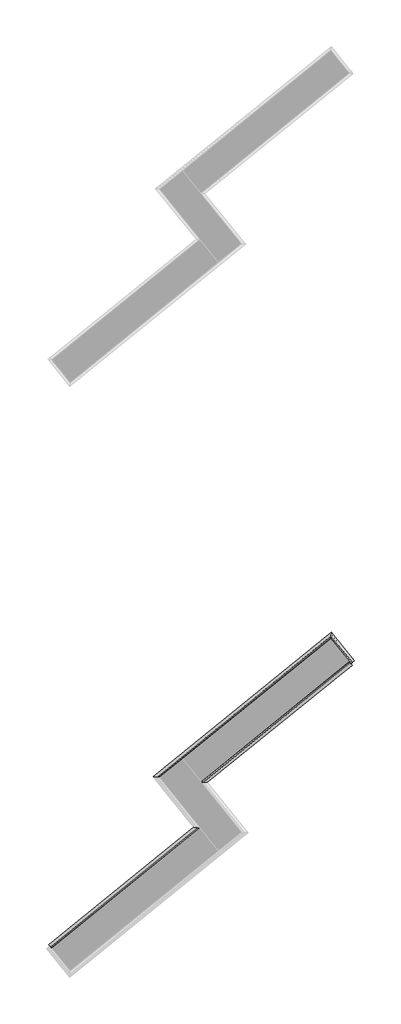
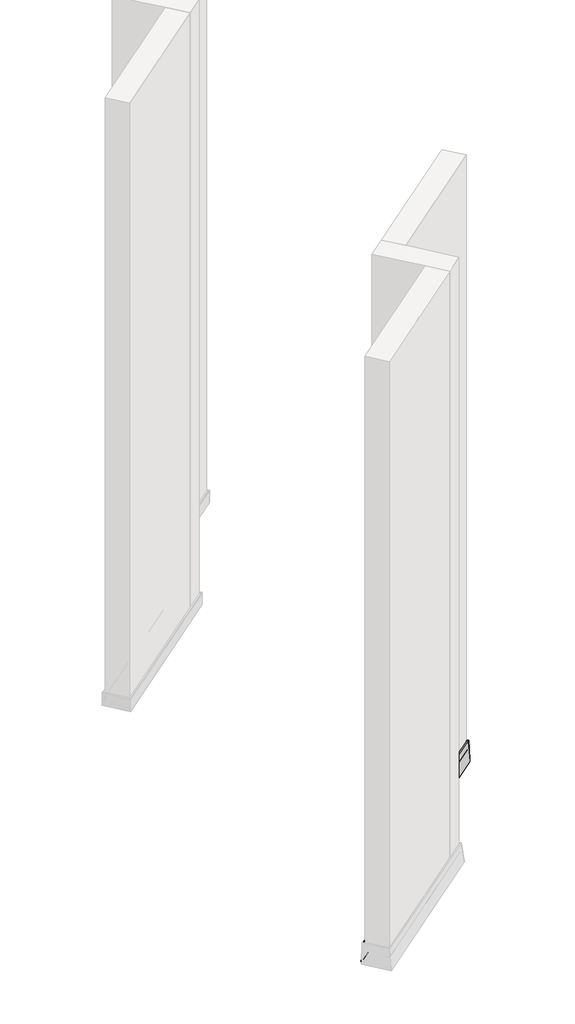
# One storey, part 3 of 21: 3 proxies.
"""IFC4 building model written with IfcOpenShell, lengths in millimetres."""

import ifcopenshell
import ifcopenshell.guid

model = None  # the IFC model being written
_history = None  # IfcOwnerHistory: only IFC2X3 demands one
_inside = {}  # id of a spatial element -> (the spatial element, [elements in it])
_under = {}  # id of a project, library or spatial element -> (it, [spatial elements below it])
_declared = {}  # id of a project -> (the project, [libraries it declares])
_typed = {}  # id of a type object -> (the type object, [elements of that type])
_made_of = {}  # id of a material, layer set ... -> (it, [elements and type objects made of it])


def new_model(schema):
    """Start an empty IFC model of exactly this schema.

    Asked for "IFC4X3", IfcOpenShell would pick the latest addendum, in which some entities
    have other attributes; the version numbers below select the first issue.
    IFC2X3 requires an IfcOwnerHistory on every rooted entity: one is made here for all.
    """
    global model, _history
    if schema == "IFC4X3":
        model = ifcopenshell.file(schema_version=(4, 3, 0, 0))
    else:
        model = ifcopenshell.file(schema=schema)
    _inside.clear()
    _under.clear()
    _declared.clear()
    _typed.clear()
    _made_of.clear()
    _history = None
    if model.schema == "IFC2X3":
        org = make("IfcOrganization", Name="unknown")
        user = make(
            "IfcPersonAndOrganization",
            ThePerson=make("IfcPerson", FamilyName="unknown"),
            TheOrganization=org,
        )
        app = make(
            "IfcApplication",
            ApplicationDeveloper=org,
            Version="unknown",
            ApplicationFullName="unknown",
            ApplicationIdentifier="unknown",
        )
        _history = make(
            "IfcOwnerHistory",
            OwningUser=user,
            OwningApplication=app,
            ChangeAction="ADDED",
            CreationDate=0,
        )
    return model


def make(cls, **values):
    """One entity of the class cls with the attributes given. An attribute that is None is left unset."""
    return model.create_entity(
        cls, **{name: value for name, value in values.items() if value is not None}
    )


def rooted(cls, **values):
    """An entity with a GlobalId (a new one), such as an element, a storey or a relation."""
    return make(cls, GlobalId=ifcopenshell.guid.new(), OwnerHistory=_history, **values)


def si_unit(unit_type, name, prefix=None):
    """IfcSIUnit, for example si_unit("LENGTHUNIT", "METRE", prefix="MILLI")."""
    return make("IfcSIUnit", UnitType=unit_type, Prefix=prefix, Name=name)


def assignment(units):
    """IfcUnitAssignment: the units of a project."""
    return None if units is None else make("IfcUnitAssignment", Units=units)


def point(xyz):
    """IfcCartesianPoint."""
    return None if xyz is None else make("IfcCartesianPoint", Coordinates=xyz)


def direction(xyz):
    """IfcDirection."""
    return None if xyz is None else make("IfcDirection", DirectionRatios=xyz)


def frame(location, z_axis=None, x_axis=None):
    """IfcAxis2Placement3D, a coordinate frame: its origin and axes. An axis left out is left unset."""
    return make(
        "IfcAxis2Placement3D",
        Location=point(location),
        Axis=direction(z_axis),
        RefDirection=direction(x_axis),
    )


def frame_2d(location, x_axis=None):
    """IfcAxis2Placement2D, a coordinate frame in the plane: its origin and x axis."""
    return make(
        "IfcAxis2Placement2D", Location=point(location), RefDirection=direction(x_axis)
    )


def origin():
    """The frame at (0, 0, 0) with its axes left unset."""
    return frame((0.0, 0.0, 0.0))


def place(relative_to, where):
    """IfcLocalPlacement: puts the frame where relative to a parent placement (None: the world)."""
    return make(
        "IfcLocalPlacement", PlacementRelTo=relative_to, RelativePlacement=where
    )


def context(
    kind, dimensions, precision=None, world=None, true_north=None, identifier=None
):
    """IfcGeometricRepresentationContext, for example the 3D "Model" context."""
    return make(
        "IfcGeometricRepresentationContext",
        ContextIdentifier=identifier,
        ContextType=kind,
        CoordinateSpaceDimension=dimensions,
        Precision=precision,
        WorldCoordinateSystem=world,
        TrueNorth=true_north,
    )


def project(units=None, contexts=None):
    """IfcProject with its units and contexts."""
    return rooted(
        "IfcProject",
        Name="project",
        RepresentationContexts=contexts,
        UnitsInContext=assignment(units),
    )


def spatial(cls, under=None, at=None, **own):
    """A site, building, storey or space (cls), placed at a placement, below another one or the project."""
    s = rooted(cls, ObjectPlacement=at, **own)
    if under is not None:
        _under.setdefault(under.id(), (under, []))[1].append(s)
    return s


def polyline(points):
    """IfcPolyline through the points."""
    return make("IfcPolyline", Points=[point(p) for p in points])


def circle_curve(where, radius):
    """IfcCircle in the frame where."""
    return make("IfcCircle", Position=where, Radius=radius)


def ellipse_curve(where, semi_axis1, semi_axis2):
    """IfcEllipse in the frame where."""
    return make(
        "IfcEllipse", Position=where, SemiAxis1=semi_axis1, SemiAxis2=semi_axis2
    )


def trimmed(basis, trim1, trim2, sense, master):
    """IfcTrimmedCurve: the piece of a basis curve between two trims."""
    return make(
        "IfcTrimmedCurve",
        BasisCurve=basis,
        Trim1=trim1,
        Trim2=trim2,
        SenseAgreement=sense,
        MasterRepresentation=master,
    )


def segment(curve, same_sense, transition):
    """IfcCompositeCurveSegment."""
    return make(
        "IfcCompositeCurveSegment",
        Transition=transition,
        SameSense=same_sense,
        ParentCurve=curve,
    )


def composite_curve(segments, self_intersect=None):
    """IfcCompositeCurve: segments joined end to end."""
    return make("IfcCompositeCurve", Segments=segments, SelfIntersect=self_intersect)


def outline(outer, holes=None, kind="AREA"):
    """IfcArbitraryClosedProfileDef: a profile drawn as a closed curve; with holes, ...WithVoids."""
    if holes is None:
        return make("IfcArbitraryClosedProfileDef", ProfileType=kind, OuterCurve=outer)
    return make(
        "IfcArbitraryProfileDefWithVoids",
        ProfileType=kind,
        OuterCurve=outer,
        InnerCurves=holes,
    )


def extrude(swept, where, along, depth):
    """IfcExtrudedAreaSolid: the profile swept, set in the frame where, extruded along a direction by depth."""
    return make(
        "IfcExtrudedAreaSolid",
        SweptArea=swept,
        Position=where,
        ExtrudedDirection=direction(along),
        Depth=depth,
    )


def shape(context_of_items, identifier, shape_type, items):
    """IfcShapeRepresentation: the items that make up one representation, for example the "Body"."""
    return make(
        "IfcShapeRepresentation",
        ContextOfItems=context_of_items,
        RepresentationIdentifier=identifier,
        RepresentationType=shape_type,
        Items=items,
    )


def made_of(thing, what):
    """Note that an element or type object is made of a material, layer set ...; save() writes the relation."""
    if what is not None:
        _made_of.setdefault(what.id(), (what, []))[1].append(thing)
    return thing


def element(
    cls,
    number,
    at=None,
    inside=None,
    cuts=None,
    type_object=None,
    material=None,
    context=None,
    identifier="Body",
    shape_type=None,
    held_by="IfcProductDefinitionShape",
    body=None,
    shapes=None,
    **own,
):
    """One element of the class cls, such as IfcWall. Its Tag is "e" and its number.

    at: its placement. inside: the storey or other place that contains it. cuts: it is an
    opening in that element (IfcRelVoidsElement). A single representation is given by context,
    identifier, shape_type and body (its items); several are given by shapes. held_by: the class
    of the entity that holds the representations. save() writes the other relations.
    """
    e = rooted(cls, Tag="e%d" % number, ObjectPlacement=at, **own)
    if body is not None:
        shapes = [shape(context, identifier, shape_type, body)]
    if shapes is not None:
        e.Representation = make(held_by, Representations=shapes)
    if inside is not None:
        _inside.setdefault(inside.id(), (inside, []))[1].append(e)
    if cuts is not None:
        rooted(
            "IfcRelVoidsElement", RelatingBuildingElement=cuts, RelatedOpeningElement=e
        )
    if type_object is not None:
        _typed.setdefault(type_object.id(), (type_object, []))[1].append(e)
    return made_of(e, material)


def aggregate(whole, parts):
    """IfcRelAggregates: a whole, such as a stair, and the parts it consists of."""
    return rooted("IfcRelAggregates", RelatingObject=whole, RelatedObjects=parts)


def save(model, path):
    """Write the relations noted so far, then the file.

    IfcRelAggregates (storeys below a building ...), IfcRelContainedInSpatialStructure (elements
    in a storey), IfcRelDefinesByType, IfcRelAssociatesMaterial and IfcRelDeclares: one each for
    every whole, place, type object, material and project.
    """
    for whole, parts in _under.values():
        aggregate(whole, parts)
    for where, things in _inside.values():
        rooted(
            "IfcRelContainedInSpatialStructure",
            RelatedElements=things,
            RelatingStructure=where,
        )
    for kind, things in _typed.values():
        rooted("IfcRelDefinesByType", RelatedObjects=things, RelatingType=kind)
    for what, things in _made_of.values():
        rooted("IfcRelAssociatesMaterial", RelatedObjects=things, RelatingMaterial=what)
    for by, libraries in _declared.values():
        rooted("IfcRelDeclares", RelatingContext=by, RelatedDefinitions=libraries)
    model.write(path)


def plane_surface(at):
    """IfcPlane: the flat surface through the origin of the frame at, square to its z axis."""
    return make("IfcPlane", Position=at)


def cylinder_surface(at, radius):
    """IfcCylindricalSurface: all points at the distance radius from the z axis of the frame at."""
    return make("IfcCylindricalSurface", Position=at, Radius=radius)


def advanced_brep(points, edges, surfaces, faces):
    """IfcAdvancedBrep: a solid bounded by faces that lie on surfaces and meet in shared edges.

    An edge is (start, end): straight between two places in points (the first is 0);
    or (start, end, curve); or (start, end, curve, False) where it runs against its curve.
    A face is (place in surfaces, loops), or (place, loops, False) where it looks against
    its surface's normal. A loop lists edges by number (the first is 1), with a minus sign
    where the edge is run from its end to its start. The first loop is the outer one.
    """
    corners = [point(p) for p in points]
    vertices = [make("IfcVertexPoint", VertexGeometry=c) for c in corners]
    made = []
    for start, end, *more in edges:
        made.append(
            make(
                "IfcEdgeCurve",
                EdgeStart=vertices[start],
                EdgeEnd=vertices[end],
                EdgeGeometry=more[0] if more else make("IfcPolyline", Points=[corners[start], corners[end]]),
                SameSense=more[1] if len(more) > 1 else True,
            )
        )
    hull = []
    for where, loops, *sense in faces:
        bounds = []
        for j, loop in enumerate(loops):
            ring = [make("IfcOrientedEdge", EdgeElement=made[abs(k) - 1], Orientation=k > 0) for k in loop]
            bounds.append(
                make(
                    "IfcFaceOuterBound" if j == 0 else "IfcFaceBound",
                    Bound=make("IfcEdgeLoop", EdgeList=ring),
                    Orientation=True,
                )
            )
        hull.append(make("IfcAdvancedFace", Bounds=bounds, FaceSurface=surfaces[where], SameSense=sense[0] if sense else True))
    return make("IfcAdvancedBrep", Outer=make("IfcClosedShell", CfsFaces=hull))


model = new_model("IFC4")

# Units and contexts
model_context = context("Model", 3, world=origin())
ifc_project = project(units=[si_unit("LENGTHUNIT", "METRE", prefix="MILLI")], contexts=[model_context])

# Site, building, storey
site = spatial("IfcSite", under=ifc_project)
building = spatial("IfcBuilding", under=site)
storey = spatial("IfcBuildingStorey", under=building, Name="Izofleks 2D View", Elevation=0.0)

# Proxies
placement = place(None, origin())
element("IfcBuildingElementProxy", 1, Name="Wall Sweeps", at=placement, inside=storey, context=model_context, shape_type="SweptSolid", body=[
    extrude(outline(composite_curve([segment(polyline([(15.6219715, -103.3958552), (6.3708871, -198.4044858), (1.9090731, -198.4044858), (1.9090731, -196.4379716), (-0.0570858, -196.4379716), (-0.0504537, -195.1968352), (3.1915412, -195.1968352), (3.1915412, -197.1519802), (5.2275732, -197.1519802), (9.2117278, -158.9598298), (5.1209002, -158.9598298)]), True, "CONTINUOUS"), segment(trimmed(circle_curve(frame_2d((5.1209002, -157.9598298)), 1.0), [point((5.1209002, -158.9598298))], [point((4.1375523, -158.1415633))], False, "CARTESIAN"), True, "CONTINUOUS"), segment(polyline([(4.1375523, -158.1415633), (2.4996951, -149.2792273)]), True, "CONTINUOUS"), segment(trimmed(circle_curve(frame_2d((3.5460542, -149.1129589)), 1.0594869), [point((2.4996951, -149.2792273))], [point((3.7739381, -148.0782698))], False, "CARTESIAN"), True, "CONTINUOUS"), segment(polyline([(3.7739381, -148.0782698), (3.33335, -147.1943194), (1.29999, -147.1943194), (1.29999, -153.3045194)]), True, "CONTINUOUS"), segment(trimmed(circle_curve(frame_2d((0.2491905, -153.2834776)), 1.0510102), [point((1.29999, -153.3045194))], [point((0.0, -154.3045194))], False, "CARTESIAN"), True, "CONTINUOUS"), segment(polyline([(0.0, -154.3045194), (0.0, -99.3045294), (1.29999, -99.3045294), (1.29999, -116.3045194), (6.2996999, -116.3045194)]), True, "CONTINUOUS"), segment(trimmed(circle_curve(frame_2d((6.1786476, -116.9545244)), 0.6611809), [point((6.2996999, -116.3045194))], [point((6.2953783, -117.6053194))], False, "CARTESIAN"), True, "CONTINUOUS"), segment(polyline([(6.2953783, -117.6053194), (4.6572599, -117.6053194), (6.6241655, -126.5026094)]), True, "CONTINUOUS"), segment(trimmed(circle_curve(frame_2d((6.1203531, -126.5467173)), 0.5057396), [point((6.6241655, -126.5026094))], [point((6.1241073, -127.0524429))], False, "CARTESIAN"), True, "CONTINUOUS"), segment(polyline([(6.1241073, -127.0524429), (6.5633432, -128.7119572), (12.0010036, -128.7119572), (14.2355227, -104.706391), (11.3870675, -104.706391), (11.3870675, -100.9757578), (12.6979585, -100.9757578), (12.6979585, -103.3958552), (15.6219715, -103.3958552)]), True, "CONTINUOUS")], self_intersect=False)), frame((2288.0380278, -9173.6542987, -99.3045294), z_axis=(0.7771459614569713, 0.629320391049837, 0.0), x_axis=(0.629320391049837, -0.7771459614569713, 0.0)), (0.0, 0.0, 1.0), 650.0),
])
element("IfcBuildingElementProxy", 2, Name="Wall Sweeps", at=placement, inside=storey, context=model_context, shape_type="AdvancedBrep", body=[
    advanced_brep(
    [(2125.4196152, -9156.5624148, 4.0913258), (2129.532141, -9156.9946587, 4.0913258), (2129.532141, -9156.9946587, 1.6712284), (2131.3758652, -9157.1884419, 1.6712284), (2131.3758652, -9157.1884419, 5.4018616), (2127.3696087, -9156.7673674, 5.4018616), (2130.5123846, -9157.0976864, 29.4074278), (2138.160271, -9157.9015117, 29.4074278), (2138.7780416, -9157.966442, 27.7479135), (2138.0747265, -9157.8925206, 27.19808), (2140.841113, -9158.1832795, 18.30079), (2138.5371548, -9157.9411238, 18.30079), (2138.5310764, -9157.9404849, 16.99999), (2145.5630003, -9158.6795699, 16.99999), (2145.5630003, -9158.6795699, 0.0), (2147.3913925, -9158.8717417, 0.0), (2147.3913925, -9158.8717417, 54.99999), (2145.5630003, -9158.6795699, 53.99999), (2145.5630003, -9158.6795699, 47.88979), (2142.7031479, -9158.3789873, 47.88979), (2142.0834754, -9158.3138571, 48.7737404), (2143.8756554, -9158.5022228, 49.9746979), (2141.5720643, -9158.2601056, 58.8370339), (2140.1890187, -9158.1147417, 59.6553004), (2134.4354072, -9157.5100127, 59.6553004), (2140.0389867, -9158.0989727, 97.8474508), (2142.9025972, -9158.3999503, 97.8474508), (2142.9025972, -9158.3999503, 95.8923058), (2147.462354, -9158.8792, 95.8923058), (2147.4716817, -9158.8801804, 97.1334422), (2144.7063454, -9158.5895318, 97.1334422), (2144.7063454, -9158.5895318, 99.0999564), (2138.4309541, -9157.9299616, 99.0999564), (2811.0644981, -8761.8544174, 4.0913258), (2803.8750553, -8767.6763134, 99.0999564), (2800.4075745, -8770.484224, 99.0999564), (2800.4075745, -8770.484224, 97.1334422), (2798.8795821, -8771.7215679, 97.1334422), (2798.8847361, -8771.7173942, 95.8923058), (2801.4042394, -8769.6771407, 95.8923058), (2801.4042394, -8769.6771407, 97.8474508), (2802.9865335, -8768.3958242, 97.8474508), (2806.0828032, -8765.8885145, 59.6553004), (2802.903633, -8768.4629557, 59.6553004), (2802.1394282, -8769.0817966, 58.8370339), (2800.8665741, -8770.1125335, 49.9746979), (2801.8568469, -8769.3106264, 48.7737404), (2801.5144456, -8769.5878975, 47.88979), (2799.934228, -8770.8675324, 47.88979), (2799.934228, -8770.8675324, 53.99999), (2798.9239461, -8771.6856426, 54.99999), (2798.9239461, -8771.6856426, 0.0), (2799.934228, -8770.8675324, 0.0), (2799.934228, -8770.8675324, 16.99999), (2803.8197325, -8767.721113, 16.99999), (2803.8163739, -8767.7238327, 18.30079), (2802.5433169, -8768.754734, 18.30079), (2804.0718896, -8767.5169202, 27.19808), (2803.6832713, -8767.831617, 27.7479135), (2804.0246218, -8767.5551969, 29.4074278), (2808.2504776, -8764.1331663, 29.4074278), (2809.9870251, -8762.7269379, 5.4018616), (2807.7733596, -8764.5195288, 5.4018616), (2807.7733596, -8764.5195288, 1.6712284), (2808.7921133, -8763.6945584, 1.6712284), (2808.7921133, -8763.6945584, 4.0913258), (2732.5601904, -8664.9096711, 4.0913258), (2731.1926436, -8677.9210099, 99.0999564), (2730.5330734, -8684.1964013, 99.0999564), (2730.5330734, -8684.1964013, 97.1334422), (2730.2424249, -8686.9617376, 97.1334422), (2730.2434052, -8686.9524099, 95.8923058), (2730.722655, -8682.3926531, 95.8923058), (2730.722655, -8682.3926531, 97.8474508), (2731.0236326, -8679.5290425, 97.8474508), (2731.6125925, -8673.9254631, 59.6553004), (2731.0078636, -8679.6790746, 59.6553004), (2730.8624996, -8681.0621202, 58.8370339), (2730.6203825, -8683.3657112, 49.9746979), (2730.8087482, -8681.5735313, 48.7737404), (2730.743618, -8682.1932038, 47.88979), (2730.4430354, -8685.0530562, 47.88979), (2730.4430354, -8685.0530562, 53.99999), (2730.2508636, -8686.8814484, 54.99999), (2730.2508636, -8686.8814484, 0.0), (2793.1829027, -8764.5960445, 0.0), (2730.4430354, -8685.0530562, 0.0), (2730.4430354, -8685.0530562, 16.99999), (2731.1821203, -8678.0211323, 16.99999), (2731.1814815, -8678.0272106, 18.30079), (2730.9393257, -8680.3311689, 18.30079), (2731.2300846, -8677.5647824, 27.19808), (2731.1561633, -8678.2680975, 27.7479135), (2731.2210936, -8677.6503269, 29.4074278), (2732.0249188, -8670.0024405, 29.4074278), (2732.3552379, -8666.8596646, 5.4018616), (2731.9341633, -8670.865921, 5.4018616), (2731.9341633, -8670.865921, 1.6712284), (2732.1279466, -8669.0221969, 1.6712284), (2732.1279466, -8669.0221969, 4.0913258), (2225.1059886, -9095.9397026, 0.0)],
    [
        (0, 1),
        (1, 2),
        (2, 3),
        (3, 4),
        (4, 5),
        (5, 6),
        (6, 7),
        (7, 8),
        (8, 9, ellipse_curve(frame((2138.7833218, -9157.966997, 27.2421879), z_axis=(-0.10452846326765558, -0.9945218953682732, 0.0), x_axis=(0.9945218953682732, -0.1045284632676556, 0.0)), 0.7152237, 0.5057396)),
        (9, 10),
        (10, 11),
        (11, 12, ellipse_curve(frame((2138.7013325, -9157.9583796, 17.649995), z_axis=(-0.10452846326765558, -0.9945218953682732, 0.0), x_axis=(0.9945218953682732, -0.10452846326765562, 0.0)), 0.935051, 0.6611809)),
        (12, 13),
        (13, 14),
        (14, 15),
        (15, 16),
        (16, 17, ellipse_curve(frame((2147.0409144, -9158.8349049, 53.9789482), z_axis=(-0.10452846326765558, -0.9945218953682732, 0.0), x_axis=(0.9945218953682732, -0.10452846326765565, 0.0)), 1.4863528, 1.0510102)),
        (17, 18),
        (18, 19),
        (19, 20),
        (20, 21, ellipse_curve(frame((2142.4039865, -9158.3475442, 49.8084295), z_axis=(-0.10452846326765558, -0.9945218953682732, 0.0), x_axis=(0.9945218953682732, -0.10452846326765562, 0.0)), 1.4983408, 1.0594869)),
        (21, 22),
        (22, 23, ellipse_curve(frame((2140.1890187, -9158.1147417, 58.6553004), z_axis=(-0.10452846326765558, -0.9945218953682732, 0.0), x_axis=(0.9945218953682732, -0.10452846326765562, 0.0)), 1.4142136, 1.0)),
        (23, 24),
        (24, 25),
        (25, 26),
        (26, 27),
        (27, 28),
        (28, 29),
        (29, 30),
        (30, 31),
        (31, 32),
        (32, 0),
        (33, 34),
        (34, 35),
        (35, 36),
        (36, 37),
        (37, 38),
        (38, 39),
        (39, 40),
        (40, 41),
        (41, 42),
        (42, 43),
        (43, 44, circle_curve(frame((2802.903633, -8768.4629557, 58.6553004), z_axis=(0.6293203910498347, -0.777145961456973, 0.0), x_axis=(-0.7642047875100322, -0.6188408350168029, 0.18173349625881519)), 1.0)),
        (44, 45),
        (45, 46, circle_curve(frame((2801.6797478, -8769.4540384, 49.8084295), z_axis=(0.6293203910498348, -0.7771459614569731, 0.0), x_axis=(0.1671555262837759, 0.1353598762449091, -0.9765944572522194)), 1.0594869)),
        (46, 47),
        (47, 48),
        (48, 49),
        (49, 50, circle_curve(frame((2799.1176035, -8771.528822, 53.9789482), z_axis=(0.6293203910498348, -0.777145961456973, 0.0), x_axis=(-0.18425834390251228, -0.14920946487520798, 0.9714861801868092)), 1.0510102)),
        (50, 51),
        (51, 52),
        (52, 53),
        (53, 54),
        (54, 55, circle_curve(frame((2803.7256571, -8767.7972937, 17.649995), z_axis=(0.6293203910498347, -0.777145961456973, 0.0), x_axis=(0.1422838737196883, 0.11521920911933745, 0.9830970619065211)), 0.6611809)),
        (55, 56),
        (56, 57),
        (57, 58, circle_curve(frame((2803.6803538, -8767.8339796, 27.2421879), z_axis=(0.6293203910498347, -0.7771459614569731, 0.0), x_axis=(0.005768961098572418, 0.004671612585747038, 0.9999724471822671)), 0.5057396)),
        (58, 59),
        (59, 60),
        (60, 61),
        (61, 62),
        (62, 63),
        (63, 64),
        (64, 65),
        (65, 33),
        (33, 66),
        (66, 67),
        (67, 34),
        (67, 68),
        (68, 35),
        (68, 69),
        (69, 36),
        (69, 70),
        (70, 37),
        (70, 71),
        (71, 38),
        (71, 72),
        (72, 39),
        (72, 73),
        (73, 40),
        (73, 74),
        (74, 41),
        (74, 75),
        (75, 42),
        (75, 76),
        (76, 43),
        (76, 77, ellipse_curve(frame((2731.0078636, -8679.6790746, 58.6553004), z_axis=(0.9945218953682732, -0.10452846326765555, 0.0), x_axis=(-0.10452846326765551, -0.9945218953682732, 0.0)), 1.4142136, 1.0)),
        (77, 44),
        (77, 78),
        (78, 45),
        (78, 79, ellipse_curve(frame((2730.7750611, -8681.8940424, 49.8084295), z_axis=(0.9945218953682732, -0.10452846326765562, 0.0), x_axis=(-0.10452846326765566, -0.9945218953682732, 0.0)), 1.4983408, 1.0594869)),
        (79, 46),
        (79, 80),
        (80, 47),
        (80, 81),
        (81, 48),
        (81, 82),
        (82, 49),
        (82, 83, ellipse_curve(frame((2730.2877003, -8686.5309703, 53.9789482), z_axis=(0.9945218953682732, -0.10452846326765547, 0.0), x_axis=(-0.10452846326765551, -0.9945218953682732, 0.0)), 1.4863528, 1.0510102)),
        (83, 50),
        (83, 84),
        (84, 85),
        (85, 51),
        (84, 86),
        (86, 52),
        (86, 87),
        (87, 53),
        (87, 88),
        (88, 54),
        (88, 89, ellipse_curve(frame((2731.1642257, -8678.1913884, 17.649995), z_axis=(0.9945218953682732, -0.10452846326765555, 0.0), x_axis=(-0.10452846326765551, -0.9945218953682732, 0.0)), 0.935051, 0.6611809)),
        (89, 55),
        (89, 90),
        (90, 56),
        (90, 91),
        (91, 57),
        (91, 92, ellipse_curve(frame((2731.1556083, -8678.2733777, 27.2421879), z_axis=(0.9945218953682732, -0.10452846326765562, 0.0), x_axis=(-0.10452846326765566, -0.9945218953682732, 0.0)), 0.7152237, 0.5057396)),
        (92, 58),
        (92, 93),
        (93, 59),
        (93, 94),
        (94, 60),
        (94, 95),
        (95, 61),
        (95, 96),
        (96, 62),
        (96, 97),
        (97, 63),
        (97, 98),
        (98, 64),
        (98, 99),
        (99, 65),
        (99, 66),
        (66, 0),
        (32, 67),
        (31, 68),
        (30, 69),
        (29, 70),
        (28, 71),
        (27, 72),
        (26, 73),
        (25, 74),
        (24, 75),
        (23, 76),
        (22, 77),
        (21, 78),
        (20, 79),
        (19, 80),
        (18, 81),
        (17, 82),
        (16, 83),
        (15, 100),
        (100, 84),
        (14, 86),
        (13, 87),
        (12, 88),
        (11, 89),
        (10, 90),
        (9, 91),
        (8, 92),
        (7, 93),
        (6, 94),
        (5, 95),
        (4, 96),
        (3, 97),
        (2, 98),
        (1, 99),
    ],
    [
        plane_surface(frame((2147.3913925, -9158.8717417, -304.8), z_axis=(-0.10452846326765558, -0.9945218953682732, 0.0), x_axis=(0.9945218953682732, -0.10452846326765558, 0.0))),
        plane_surface(frame((2798.9239461, -8771.6856426, 0.0), z_axis=(0.6293203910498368, -0.7771459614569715, 0.0), x_axis=(-0.7771459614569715, -0.6293203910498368, 0.0))),
        plane_surface(frame((2811.0644981, -8761.8544174, 4.0913258), z_axis=(0.7734878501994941, 0.626358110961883, 0.09691265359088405), x_axis=(-0.6293203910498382, 0.7771459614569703, 0.0))),
        plane_surface(frame((2803.8750553, -8767.6763134, 99.0999564), z_axis=(0.0, 0.0, 1.0), x_axis=(-0.6293203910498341, 0.7771459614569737, 0.0))),
        plane_surface(frame((2800.4075745, -8770.484224, 99.0999564), z_axis=(-0.7771459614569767, -0.6293203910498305, 0.0), x_axis=(-0.6293203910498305, 0.7771459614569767, 0.0))),
        plane_surface(frame((2800.4075745, -8770.484224, 97.1334422), z_axis=(0.0, 0.0, 1.0), x_axis=(-0.6293203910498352, 0.7771459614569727, 0.0))),
        plane_surface(frame((2798.8795821, -8771.7215679, 97.1334422), z_axis=(-0.7771348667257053, -0.6293114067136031, -0.005343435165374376), x_axis=(-0.6293203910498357, 0.7771459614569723, 0.0))),
        plane_surface(frame((2798.8847361, -8771.7173942, 95.8923058), z_axis=(0.0, 0.0, -1.0), x_axis=(-0.6293203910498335, 0.777145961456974, 0.0))),
        plane_surface(frame((2801.4042394, -8769.6771407, 95.8923058), z_axis=(0.7771459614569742, 0.6293203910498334, 0.0), x_axis=(-0.6293203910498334, 0.7771459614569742, 0.0))),
        plane_surface(frame((2801.4042394, -8769.6771407, 97.8474508), z_axis=(0.0, 0.0, -1.0000000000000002), x_axis=(-0.6293203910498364, 0.7771459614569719, 0.0))),
        plane_surface(frame((2802.9865335, -8768.3958242, 97.8474508), z_axis=(-0.7729515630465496, -0.6259238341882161, -0.10375565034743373), x_axis=(-0.6293203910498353, 0.7771459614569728, 0.0))),
        plane_surface(frame((2806.0828032, -8765.8885145, 59.6553004), z_axis=(0.0, 0.0, 1.0), x_axis=(-0.6293203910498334, 0.7771459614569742, 0.0))),
        cylinder_surface(frame((2802.903633, -8768.4629557, 58.6553004), z_axis=(0.6293203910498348, -0.7771459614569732, 0.0), x_axis=(-0.7642047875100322, -0.6188408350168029, 0.18173349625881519)), 1.0),
        plane_surface(frame((2802.1394282, -8769.0817966, 58.8370339), z_axis=(-0.7642047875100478, -0.6188408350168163, 0.18173349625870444), x_axis=(-0.6293203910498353, 0.7771459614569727, 0.0))),
        cylinder_surface(frame((2801.6797478, -8769.4540384, 49.8084295), z_axis=(0.6293203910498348, -0.7771459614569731, 0.0), x_axis=(0.1671555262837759, 0.1353598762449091, -0.9765944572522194)), 1.0594869),
        plane_surface(frame((2801.8568469, -8769.3106264, 48.7737404), z_axis=(-0.695536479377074, -0.5632343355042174, 0.44608977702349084), x_axis=(-0.6293203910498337, 0.7771459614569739, 0.0))),
        plane_surface(frame((2801.5144456, -8769.5878975, 47.88979), z_axis=(0.0, 0.0, 1.0), x_axis=(-0.6293203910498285, 0.7771459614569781, 0.0))),
        plane_surface(frame((2799.934228, -8770.8675324, 47.88979), z_axis=(0.7771459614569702, 0.6293203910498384, 0.0), x_axis=(-0.6293203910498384, 0.7771459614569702, 0.0))),
        cylinder_surface(frame((2799.1176035, -8771.528822, 53.9789482), z_axis=(0.6293203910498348, -0.777145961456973, 0.0), x_axis=(-0.18425834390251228, -0.14920946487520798, 0.9714861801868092)), 1.0510102),
        plane_surface(frame((2798.9239461, -8771.6856426, 54.99999), z_axis=(-0.7771459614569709, -0.6293203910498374, 0.0), x_axis=(-0.6293203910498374, 0.7771459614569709, 0.0))),
        plane_surface(frame((2798.9239461, -8771.6856426, 0.0), z_axis=(0.0, 0.0, -1.0), x_axis=(-0.6293203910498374, 0.7771459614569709, 0.0))),
        plane_surface(frame((2799.934228, -8770.8675324, 0.0), z_axis=(0.7771459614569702, 0.6293203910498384, 0.0), x_axis=(-0.6293203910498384, 0.7771459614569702, 0.0))),
        plane_surface(frame((2799.934228, -8770.8675324, 16.99999), z_axis=(0.0, 0.0, -1.0), x_axis=(-0.6293203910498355, 0.7771459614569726, 0.0))),
        cylinder_surface(frame((2803.7256571, -8767.7972937, 17.649995), z_axis=(0.6293203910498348, -0.7771459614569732, 0.0), x_axis=(0.1422838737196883, 0.11521920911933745, 0.9830970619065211)), 0.6611809),
        plane_surface(frame((2803.8163739, -8767.7238327, 18.30079), z_axis=(0.0, 0.0, 1.0), x_axis=(-0.6293203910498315, 0.7771459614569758, 0.0))),
        plane_surface(frame((2802.5433169, -8768.754734, 18.30079), z_axis=(0.7588248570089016, 0.6144842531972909, -0.21585629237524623), x_axis=(-0.6293203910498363, 0.7771459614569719, 0.0))),
        cylinder_surface(frame((2803.6803538, -8767.8339796, 27.2421879), z_axis=(0.6293203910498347, -0.7771459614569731, 0.0), x_axis=(0.005768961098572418, 0.004671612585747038, 0.9999724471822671)), 0.5057396),
        plane_surface(frame((2803.6832713, -8767.831617, 27.7479135), z_axis=(0.7512763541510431, 0.6083715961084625, -0.2558668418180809), x_axis=(-0.6293203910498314, 0.7771459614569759, 0.0))),
        plane_surface(frame((2804.0246218, -8767.5551969, 29.4074278), z_axis=(0.0, 0.0, -1.0000000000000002), x_axis=(-0.6293203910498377, 0.7771459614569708, 0.0))),
        plane_surface(frame((2808.2504776, -8764.1331663, 29.4074278), z_axis=(-0.7738008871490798, -0.6266116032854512, -0.09268271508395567), x_axis=(-0.6293203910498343, 0.7771459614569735, 0.0))),
        plane_surface(frame((2809.9870251, -8762.7269379, 5.4018616), z_axis=(0.0, 0.0, 1.0), x_axis=(-0.6293203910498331, 0.7771459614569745, 0.0))),
        plane_surface(frame((2807.7733596, -8764.5195288, 5.4018616), z_axis=(-0.7771459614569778, -0.629320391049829, 0.0), x_axis=(-0.629320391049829, 0.7771459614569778, 0.0))),
        plane_surface(frame((2807.7733596, -8764.5195288, 1.6712284), z_axis=(0.0, 0.0, -1.0), x_axis=(-0.629320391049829, 0.7771459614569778, 0.0))),
        plane_surface(frame((2808.7921133, -8763.6945584, 1.6712284), z_axis=(0.7771459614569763, 0.6293203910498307, 0.0), x_axis=(-0.6293203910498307, 0.7771459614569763, 0.0))),
        plane_surface(frame((2808.7921133, -8763.6945584, 4.0913258), z_axis=(0.0, 0.0, -1.0), x_axis=(-0.6293203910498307, 0.7771459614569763, 0.0))),
        plane_surface(frame((2732.5601904, -8664.9096711, 4.0913258), z_axis=(-0.6263581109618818, 0.773487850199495, 0.09691265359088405), x_axis=(-0.7771459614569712, -0.629320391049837, 0.0))),
        plane_surface(frame((2731.1926436, -8677.9210099, 99.0999564), z_axis=(0.0, 0.0, 1.0000000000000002), x_axis=(-0.7771459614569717, -0.6293203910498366, 0.0))),
        plane_surface(frame((2730.5330734, -8684.1964013, 99.0999564), z_axis=(0.6293203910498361, -0.777145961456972, 0.0), x_axis=(-0.777145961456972, -0.6293203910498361, 0.0))),
        plane_surface(frame((2730.5330734, -8684.1964013, 97.1334422), z_axis=(0.0, 0.0, 1.0000000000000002), x_axis=(-0.7771459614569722, -0.629320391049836, 0.0))),
        plane_surface(frame((2730.2424249, -8686.9617376, 97.1334422), z_axis=(0.6293114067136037, -0.7771348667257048, -0.005343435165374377), x_axis=(-0.7771459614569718, -0.6293203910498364, 0.0))),
        plane_surface(frame((2730.2434052, -8686.9524099, 95.8923058), z_axis=(0.0, 0.0, -1.0), x_axis=(-0.7771459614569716, -0.6293203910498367, 0.0))),
        plane_surface(frame((2730.722655, -8682.3926531, 95.8923058), z_axis=(-0.6293203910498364, 0.7771459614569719, 0.0), x_axis=(-0.7771459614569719, -0.6293203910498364, 0.0))),
        plane_surface(frame((2730.722655, -8682.3926531, 97.8474508), z_axis=(0.0, 0.0, -1.0000000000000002), x_axis=(-0.7771459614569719, -0.6293203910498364, 0.0))),
        plane_surface(frame((2731.0236326, -8679.5290425, 97.8474508), z_axis=(0.6259238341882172, -0.7729515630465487, -0.10375565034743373), x_axis=(-0.7771459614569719, -0.6293203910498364, 0.0))),
        plane_surface(frame((2731.6125925, -8673.9254631, 59.6553004), z_axis=(0.0, 0.0, 1.0), x_axis=(-0.7771459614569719, -0.6293203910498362, 0.0))),
        cylinder_surface(frame((2727.0281767, -8682.9017615, 58.6553004), z_axis=(0.7771459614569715, 0.6293203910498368, 0.0), x_axis=(0.6188408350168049, -0.7642047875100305, 0.18173349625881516)), 1.0),
        plane_surface(frame((2730.8624996, -8681.0621202, 58.8370339), z_axis=(0.6188408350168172, -0.7642047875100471, 0.18173349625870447), x_axis=(-0.777145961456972, -0.6293203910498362, 0.0))),
        cylinder_surface(frame((2728.0192594, -8684.1256466, 49.8084295), z_axis=(0.7771459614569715, 0.6293203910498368, 0.0), x_axis=(-0.13535987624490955, 0.16715552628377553, -0.9765944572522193)), 1.0594869),
        plane_surface(frame((2730.8087482, -8681.5735313, 48.7737404), z_axis=(0.5632343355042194, -0.6955364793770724, 0.44608977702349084), x_axis=(-0.7771459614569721, -0.6293203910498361, 0.0))),
        plane_surface(frame((2730.743618, -8682.1932038, 47.88979), z_axis=(0.0, 0.0, 1.0), x_axis=(-0.7771459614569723, -0.6293203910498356, 0.0))),
        plane_surface(frame((2730.4430354, -8685.0530562, 47.88979), z_axis=(-0.6293203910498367, 0.7771459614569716, 0.0), x_axis=(-0.7771459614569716, -0.6293203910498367, 0.0))),
        cylinder_surface(frame((2730.0940429, -8686.687791, 53.9789482), z_axis=(0.7771459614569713, 0.629320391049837, 0.0), x_axis=(0.14920946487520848, -0.1842583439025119, 0.9714861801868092)), 1.0510102),
        plane_surface(frame((2730.2508636, -8686.8814484, 54.99999), z_axis=(0.6293203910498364, -0.7771459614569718, 0.0), x_axis=(-0.7771459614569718, -0.6293203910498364, 0.0))),
        plane_surface(frame((2730.2508636, -8686.8814484, 0.0), z_axis=(0.0, 0.0, -1.0), x_axis=(-0.7771459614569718, -0.6293203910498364, 0.0))),
        plane_surface(frame((2730.4430354, -8685.0530562, 0.0), z_axis=(-0.6293203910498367, 0.7771459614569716, 0.0), x_axis=(-0.7771459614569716, -0.6293203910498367, 0.0))),
        plane_surface(frame((2730.4430354, -8685.0530562, 16.99999), z_axis=(0.0, 0.0, -1.0), x_axis=(-0.7771459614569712, -0.6293203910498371, 0.0))),
        cylinder_surface(frame((2726.3625147, -8682.0797373, 17.649995), z_axis=(0.7771459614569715, 0.6293203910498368, 0.0), x_axis=(-0.11521920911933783, 0.14228387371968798, 0.9830970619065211)), 0.6611809),
        plane_surface(frame((2731.1814815, -8678.0272106, 18.30079), z_axis=(0.0, 0.0, 1.0), x_axis=(-0.7771459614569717, -0.6293203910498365, 0.0))),
        plane_surface(frame((2730.9393257, -8680.3311689, 18.30079), z_axis=(-0.6144842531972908, 0.7588248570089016, -0.21585629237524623), x_axis=(-0.7771459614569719, -0.6293203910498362, 0.0))),
        cylinder_surface(frame((2726.3992006, -8682.1250407, 27.2421879), z_axis=(0.7771459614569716, 0.6293203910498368, 0.0), x_axis=(-0.004671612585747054, 0.005768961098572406, 0.9999724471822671)), 0.5057396),
        plane_surface(frame((2731.1561633, -8678.2680975, 27.7479135), z_axis=(-0.608371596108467, 0.7512763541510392, -0.25586684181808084), x_axis=(-0.777145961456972, -0.6293203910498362, 0.0))),
        plane_surface(frame((2731.2210936, -8677.6503269, 29.4074278), z_axis=(0.0, 0.0, -1.0000000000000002), x_axis=(-0.7771459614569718, -0.6293203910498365, 0.0))),
        plane_surface(frame((2732.0249188, -8670.0024405, 29.4074278), z_axis=(0.6266116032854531, -0.7738008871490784, -0.0926827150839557), x_axis=(-0.777145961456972, -0.6293203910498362, 0.0))),
        plane_surface(frame((2732.3552379, -8666.8596646, 5.4018616), z_axis=(0.0, 0.0, 1.0), x_axis=(-0.7771459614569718, -0.6293203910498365, 0.0))),
        plane_surface(frame((2731.9341633, -8670.865921, 5.4018616), z_axis=(0.6293203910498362, -0.7771459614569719, 0.0), x_axis=(-0.7771459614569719, -0.6293203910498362, 0.0))),
        plane_surface(frame((2731.9341633, -8670.865921, 1.6712284), z_axis=(0.0, 0.0, -1.0000000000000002), x_axis=(-0.7771459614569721, -0.6293203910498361, 0.0))),
        plane_surface(frame((2732.1279466, -8669.0221969, 1.6712284), z_axis=(-0.6293203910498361, 0.7771459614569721, 0.0), x_axis=(-0.7771459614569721, -0.6293203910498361, 0.0))),
        plane_surface(frame((2732.1279466, -8669.0221969, 4.0913258), z_axis=(0.0, 0.0, -1.0), x_axis=(-0.7771459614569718, -0.6293203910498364, 0.0))),
    ],
    [
        (0, [[1, 2, 3, 4, 5, 6, 7, 8, 9, 10, 11, 12, 13, 14, 15, 16, 17, 18, 19, 20, 21, 22, 23, 24, 25, 26, 27, 28, 29, 30, 31, 32, 33]]),
        (1, [[34, 35, 36, 37, 38, 39, 40, 41, 42, 43, 44, 45, 46, 47, 48, 49, 50, 51, 52, 53, 54, 55, 56, 57, 58, 59, 60, 61, 62, 63, 64, 65, 66]]),
        (2, [[-34, 67, 68, 69]]),
        (3, [[-35, -69, 70, 71]]),
        (4, [[-36, -71, 72, 73]]),
        (5, [[-37, -73, 74, 75]]),
        (6, [[-38, -75, 76, 77]]),
        (7, [[-39, -77, 78, 79]]),
        (8, [[-40, -79, 80, 81]]),
        (9, [[-41, -81, 82, 83]]),
        (10, [[-42, -83, 84, 85]]),
        (11, [[-43, -85, 86, 87]]),
        (12, [[-44, -87, 88, 89]]),
        (13, [[-45, -89, 90, 91]]),
        (14, [[-46, -91, 92, 93]]),
        (15, [[-47, -93, 94, 95]]),
        (16, [[-48, -95, 96, 97]]),
        (17, [[-49, -97, 98, 99]]),
        (18, [[-50, -99, 100, 101]]),
        (19, [[-51, -101, 102, 103, 104]]),
        (20, [[-52, -104, -103, 105, 106]]),
        (21, [[-53, -106, 107, 108]]),
        (22, [[-54, -108, 109, 110]]),
        (23, [[-55, -110, 111, 112]]),
        (24, [[-56, -112, 113, 114]]),
        (25, [[-57, -114, 115, 116]]),
        (26, [[-58, -116, 117, 118]]),
        (27, [[-59, -118, 119, 120]]),
        (28, [[-60, -120, 121, 122]]),
        (29, [[-61, -122, 123, 124]]),
        (30, [[-62, -124, 125, 126]]),
        (31, [[-63, -126, 127, 128]]),
        (32, [[-64, -128, 129, 130]]),
        (33, [[-65, -130, 131, 132]]),
        (34, [[-66, -132, 133, -67]]),
        (35, [[-68, 134, -33, 135]]),
        (36, [[-70, -135, -32, 136]]),
        (37, [[-72, -136, -31, 137]]),
        (38, [[-74, -137, -30, 138]]),
        (39, [[-76, -138, -29, 139]]),
        (40, [[-78, -139, -28, 140]]),
        (41, [[-80, -140, -27, 141]]),
        (42, [[-82, -141, -26, 142]]),
        (43, [[-84, -142, -25, 143]]),
        (44, [[-86, -143, -24, 144]]),
        (45, [[-88, -144, -23, 145]]),
        (46, [[-90, -145, -22, 146]]),
        (47, [[-92, -146, -21, 147]]),
        (48, [[-94, -147, -20, 148]]),
        (49, [[-96, -148, -19, 149]]),
        (50, [[-98, -149, -18, 150]]),
        (51, [[-100, -150, -17, 151]]),
        (52, [[-102, -151, -16, 152, 153]]),
        (53, [[-105, -153, -152, -15, 154]]),
        (54, [[-107, -154, -14, 155]]),
        (55, [[-109, -155, -13, 156]]),
        (56, [[-111, -156, -12, 157]]),
        (57, [[-113, -157, -11, 158]]),
        (58, [[-115, -158, -10, 159]]),
        (59, [[-117, -159, -9, 160]]),
        (60, [[-119, -160, -8, 161]]),
        (61, [[-121, -161, -7, 162]]),
        (62, [[-123, -162, -6, 163]]),
        (63, [[-125, -163, -5, 164]]),
        (64, [[-127, -164, -4, 165]]),
        (65, [[-129, -165, -3, 166]]),
        (66, [[-131, -166, -2, 167]]),
        (67, [[-133, -167, -1, -134]]),
    ],
),
])
element("IfcBuildingElementProxy", 3, Name="Wall Sweeps", at=placement, inside=storey, context=model_context, shape_type="AdvancedBrep", body=[
    advanced_brep(
    [(2263.8701012, -9327.5345263, 4.0913258), (2276.8814401, -9328.9020732, 99.0999564), (2283.1568314, -9329.5616434, 99.0999564), (2283.1568314, -9329.5616434, 97.1334422), (2285.9221678, -9329.8522919, 97.1334422), (2285.91284, -9329.8513115, 95.8923058), (2281.3530832, -9329.3720618, 95.8923058), (2281.3530832, -9329.3720618, 97.8474508), (2278.4894727, -9329.0710842, 97.8474508), (2272.8858933, -9328.4821243, 59.6553004), (2278.6395047, -9329.0868532, 59.6553004), (2280.0225504, -9329.2322171, 58.8370339), (2282.3261414, -9329.4743343, 49.9746979), (2280.5339615, -9329.2859686, 48.7737404), (2281.1536339, -9329.3510988, 47.88979), (2284.0134863, -9329.6516814, 47.88979), (2284.0134863, -9329.6516814, 53.99999), (2285.8418785, -9329.8438532, 54.99999), (2285.8418785, -9329.8438532, 0.0), (2284.0134863, -9329.6516814, 0.0), (2284.0134863, -9329.6516814, 16.99999), (2276.9815625, -9328.9125964, 16.99999), (2276.9876408, -9328.9132353, 18.30079), (2279.291599, -9329.1553911, 18.30079), (2276.5252126, -9328.8646321, 27.19808), (2277.2285276, -9328.9385535, 27.7479135), (2276.6107571, -9328.8736232, 29.4074278), (2268.9628707, -9328.069798, 29.4074278), (2265.8200947, -9327.7394789, 5.4018616), (2269.8263512, -9328.1605534, 5.4018616), (2269.8263512, -9328.1605534, 1.6712284), (2267.9826271, -9327.9667702, 1.6712284), (2267.9826271, -9327.9667702, 4.0913258), (1770.8657784, -9726.7615553, 4.0913258), (1772.7059193, -9729.0339401, 4.0913258), (1772.7059193, -9729.0339401, 1.6712284), (1773.5308898, -9730.0526938, 1.6712284), (1773.5308898, -9730.0526938, 5.4018616), (1771.7382988, -9727.8390283, 5.4018616), (1773.1445273, -9729.5755758, 29.4074278), (1776.5665578, -9733.8014316, 29.4074278), (1776.842978, -9734.1427821, 27.7479135), (1776.5282811, -9733.7541639, 27.19808), (1777.7660949, -9735.2827366, 18.30079), (1776.7351937, -9734.0096796, 18.30079), (1776.7324739, -9734.006321, 16.99999), (1779.8788934, -9737.8918254, 16.99999), (1779.8788934, -9737.8918254, 0.0), (1780.6970036, -9738.9021074, 0.0), (1780.6970036, -9738.9021074, 54.99999), (1779.8788934, -9737.8918254, 53.99999), (1779.8788934, -9737.8918254, 47.88979), (1778.5992585, -9736.3116079, 47.88979), (1778.3219873, -9735.9692065, 48.7737404), (1779.1238944, -9736.9594794, 49.9746979), (1778.0931575, -9735.6866253, 58.8370339), (1777.4743167, -9734.9224205, 59.6553004), (1774.8998754, -9731.7432503, 59.6553004), (1777.4071852, -9734.8395199, 97.8474508), (1778.6885016, -9736.421814, 97.8474508), (1778.6885016, -9736.421814, 95.8923058), (1780.7287552, -9738.9413173, 95.8923058), (1780.7329288, -9738.9464713, 97.1334422), (1779.4955849, -9737.4184789, 97.1334422), (1779.4955849, -9737.4184789, 99.0999564), (1776.6876744, -9733.9509981, 99.0999564)],
    [
        (0, 1),
        (1, 2),
        (2, 3),
        (3, 4),
        (4, 5),
        (5, 6),
        (6, 7),
        (7, 8),
        (8, 9),
        (9, 10),
        (10, 11, ellipse_curve(frame((2278.6395047, -9329.0868532, 58.6553004), z_axis=(0.1045284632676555, 0.9945218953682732, 0.0), x_axis=(0.9945218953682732, -0.10452846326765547, 0.0)), 1.4142136, 1.0)),
        (11, 12),
        (12, 13, ellipse_curve(frame((2280.8544726, -9329.3196557, 49.8084295), z_axis=(0.1045284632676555, 0.9945218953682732, 0.0), x_axis=(0.9945218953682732, -0.10452846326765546, 0.0)), 1.4983408, 1.0594869)),
        (13, 14),
        (14, 15),
        (15, 16),
        (16, 17, ellipse_curve(frame((2285.4914005, -9329.8070165, 53.9789482), z_axis=(0.1045284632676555, 0.9945218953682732, 0.0), x_axis=(0.9945218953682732, -0.10452846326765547, 0.0)), 1.4863528, 1.0510102)),
        (17, 18),
        (18, 19),
        (19, 20),
        (20, 21),
        (21, 22, ellipse_curve(frame((2277.1518186, -9328.9304911, 17.649995), z_axis=(0.1045284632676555, 0.9945218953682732, 0.0), x_axis=(0.9945218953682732, -0.10452846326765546, 0.0)), 0.935051, 0.6611809)),
        (22, 23),
        (23, 24),
        (24, 25, ellipse_curve(frame((2277.2338078, -9328.9391085, 27.2421879), z_axis=(0.1045284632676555, 0.9945218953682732, 0.0), x_axis=(0.9945218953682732, -0.10452846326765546, 0.0)), 0.7152237, 0.5057396)),
        (25, 26),
        (26, 27),
        (27, 28),
        (28, 29),
        (29, 30),
        (30, 31),
        (31, 32),
        (32, 0),
        (33, 34),
        (34, 35),
        (35, 36),
        (36, 37),
        (37, 38),
        (38, 39),
        (39, 40),
        (40, 41),
        (41, 42, circle_curve(frame((1776.8453406, -9734.1456997, 27.2421879), z_axis=(-0.7771459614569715, -0.6293203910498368, 0.0), x_axis=(-0.004671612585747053, 0.005768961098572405, 0.9999724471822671)), 0.5057396)),
        (42, 43),
        (43, 44),
        (44, 45, circle_curve(frame((1776.8086547, -9734.1003963, 17.649995), z_axis=(-0.7771459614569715, -0.6293203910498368, 0.0), x_axis=(-0.1152192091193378, 0.14228387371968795, 0.9830970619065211)), 0.6611809)),
        (45, 46),
        (46, 47),
        (47, 48),
        (48, 49),
        (49, 50, circle_curve(frame((1780.5401829, -9738.70845, 53.9789482), z_axis=(-0.7771459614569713, -0.6293203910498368, 0.0), x_axis=(0.14920946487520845, -0.18425834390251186, 0.9714861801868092)), 1.0510102)),
        (50, 51),
        (51, 52),
        (52, 53),
        (53, 54, circle_curve(frame((1778.4653993, -9736.1463056, 49.8084295), z_axis=(-0.7771459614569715, -0.6293203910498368, 0.0), x_axis=(-0.13535987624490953, 0.1671555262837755, -0.9765944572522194)), 1.0594869)),
        (54, 55),
        (55, 56, circle_curve(frame((1777.4743167, -9734.9224205, 58.6553004), z_axis=(-0.7771459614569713, -0.6293203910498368, 0.0), x_axis=(0.618840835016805, -0.7642047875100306, 0.1817334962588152)), 1.0)),
        (56, 57),
        (57, 58),
        (58, 59),
        (59, 60),
        (60, 61),
        (61, 62),
        (62, 63),
        (63, 64),
        (64, 65),
        (65, 33),
        (0, 33),
        (65, 1),
        (64, 2),
        (63, 3),
        (62, 4),
        (61, 5),
        (60, 6),
        (59, 7),
        (58, 8),
        (57, 9),
        (56, 10),
        (55, 11),
        (54, 12),
        (53, 13),
        (52, 14),
        (51, 15),
        (50, 16),
        (49, 17),
        (48, 18),
        (47, 19),
        (46, 20),
        (45, 21),
        (44, 22),
        (43, 23),
        (42, 24),
        (41, 25),
        (40, 26),
        (39, 27),
        (38, 28),
        (37, 29),
        (36, 30),
        (35, 31),
        (34, 32),
    ],
    [
        plane_surface(frame((2285.8418785, -9329.8438532, 304.8), z_axis=(0.1045284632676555, 0.9945218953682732, 0.0), x_axis=(-0.9945218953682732, 0.1045284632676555, 0.0))),
        plane_surface(frame((1780.6970036, -9738.9021074, -99.3045294), z_axis=(-0.7771459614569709, -0.6293203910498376, 0.0), x_axis=(0.6293203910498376, -0.7771459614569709, 0.0))),
        plane_surface(frame((2263.8701012, -9327.5345263, 4.0913258), z_axis=(-0.6263581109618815, 0.7734878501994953, 0.09691265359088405), x_axis=(-0.7771459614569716, -0.6293203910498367, 0.0))),
        plane_surface(frame((2276.8814401, -9328.9020732, 99.0999564), z_axis=(0.0, 0.0, 1.0), x_axis=(-0.7771459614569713, -0.6293203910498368, 0.0))),
        plane_surface(frame((2283.1568314, -9329.5616434, 99.0999564), z_axis=(0.6293203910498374, -0.777145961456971, 0.0), x_axis=(-0.777145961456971, -0.6293203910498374, 0.0))),
        plane_surface(frame((2283.1568314, -9329.5616434, 97.1334422), z_axis=(0.0, 0.0, 1.0000000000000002), x_axis=(-0.777145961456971, -0.6293203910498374, 0.0))),
        plane_surface(frame((2285.9221678, -9329.8522919, 97.1334422), z_axis=(0.629311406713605, -0.7771348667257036, -0.005343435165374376), x_axis=(-0.7771459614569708, -0.6293203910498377, 0.0))),
        plane_surface(frame((2285.91284, -9329.8513115, 95.8923058), z_axis=(0.0, 0.0, -1.0), x_axis=(-0.7771459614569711, -0.6293203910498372, 0.0))),
        plane_surface(frame((2281.3530832, -9329.3720618, 95.8923058), z_axis=(-0.6293203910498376, 0.7771459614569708, 0.0), x_axis=(-0.7771459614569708, -0.6293203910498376, 0.0))),
        plane_surface(frame((2281.3530832, -9329.3720618, 97.8474508), z_axis=(0.0, 0.0, -1.0), x_axis=(-0.7771459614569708, -0.6293203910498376, 0.0))),
        plane_surface(frame((2278.4894727, -9329.0710842, 97.8474508), z_axis=(0.625923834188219, -0.7729515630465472, -0.10375565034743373), x_axis=(-0.7771459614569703, -0.6293203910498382, 0.0))),
        plane_surface(frame((2272.8858933, -9328.4821243, 59.6553004), z_axis=(0.0, 0.0, 1.0000000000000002), x_axis=(-0.7771459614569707, -0.6293203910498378, 0.0))),
        cylinder_surface(frame((2282.6191916, -9325.8641663, 58.6553004), z_axis=(0.7771459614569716, 0.629320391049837, 0.0), x_axis=(0.618840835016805, -0.7642047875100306, 0.1817334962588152)), 1.0),
        plane_surface(frame((2280.0225504, -9329.2322171, 58.8370339), z_axis=(0.6188408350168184, -0.7642047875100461, 0.18173349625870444), x_axis=(-0.777145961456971, -0.6293203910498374, 0.0))),
        cylinder_surface(frame((2283.6102743, -9327.0880515, 49.8084295), z_axis=(0.7771459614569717, 0.629320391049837, 0.0), x_axis=(-0.13535987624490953, 0.1671555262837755, -0.9765944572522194)), 1.0594869),
        plane_surface(frame((2280.5339615, -9329.2859686, 48.7737404), z_axis=(0.5632343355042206, -0.6955364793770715, 0.44608977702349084), x_axis=(-0.777145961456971, -0.6293203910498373, 0.0))),
        plane_surface(frame((2281.1536339, -9329.3510988, 47.88979), z_axis=(0.0, 0.0, 1.0), x_axis=(-0.7771459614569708, -0.6293203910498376, 0.0))),
        plane_surface(frame((2284.0134863, -9329.6516814, 47.88979), z_axis=(-0.6293203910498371, 0.7771459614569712, 0.0), x_axis=(-0.7771459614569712, -0.6293203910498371, 0.0))),
        cylinder_surface(frame((2285.6850579, -9329.6501958, 53.9789482), z_axis=(0.7771459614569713, 0.6293203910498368, 0.0), x_axis=(0.14920946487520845, -0.18425834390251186, 0.9714861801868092)), 1.0510102),
        plane_surface(frame((2285.8418785, -9329.8438532, 54.99999), z_axis=(0.6293203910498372, -0.7771459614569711, 0.0), x_axis=(-0.7771459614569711, -0.6293203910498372, 0.0))),
        plane_surface(frame((2285.8418785, -9329.8438532, 0.0), z_axis=(0.0, 0.0, -1.0), x_axis=(-0.7771459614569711, -0.6293203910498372, 0.0))),
        plane_surface(frame((2284.0134863, -9329.6516814, 0.0), z_axis=(-0.6293203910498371, 0.7771459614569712, 0.0), x_axis=(-0.7771459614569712, -0.6293203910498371, 0.0))),
        plane_surface(frame((2284.0134863, -9329.6516814, 16.99999), z_axis=(0.0, 0.0, -1.0000000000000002), x_axis=(-0.7771459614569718, -0.6293203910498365, 0.0))),
        cylinder_surface(frame((2281.9535296, -9325.0421421, 17.649995), z_axis=(0.7771459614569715, 0.6293203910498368, 0.0), x_axis=(-0.1152192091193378, 0.14228387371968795, 0.9830970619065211)), 0.6611809),
        plane_surface(frame((2276.9876408, -9328.9132353, 18.30079), z_axis=(0.0, 0.0, 1.0), x_axis=(-0.7771459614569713, -0.629320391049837, 0.0))),
        plane_surface(frame((2279.291599, -9329.1553911, 18.30079), z_axis=(-0.6144842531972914, 0.7588248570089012, -0.21585629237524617), x_axis=(-0.7771459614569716, -0.6293203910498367, 0.0))),
        cylinder_surface(frame((2281.9902155, -9325.0874455, 27.2421879), z_axis=(0.7771459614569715, 0.6293203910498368, 0.0), x_axis=(-0.004671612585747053, 0.005768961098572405, 0.9999724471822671)), 0.5057396),
        plane_surface(frame((2277.2285276, -9328.9385535, 27.7479135), z_axis=(-0.6083715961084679, 0.7512763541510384, -0.25586684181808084), x_axis=(-0.7771459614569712, -0.6293203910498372, 0.0))),
        plane_surface(frame((2276.6107571, -9328.8736232, 29.4074278), z_axis=(0.0, 0.0, -1.0000000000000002), x_axis=(-0.7771459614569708, -0.6293203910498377, 0.0))),
        plane_surface(frame((2268.9628707, -9328.069798, 29.4074278), z_axis=(0.6266116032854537, -0.7738008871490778, -0.09268271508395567), x_axis=(-0.7771459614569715, -0.6293203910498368, 0.0))),
        plane_surface(frame((2265.8200947, -9327.7394789, 5.4018616), z_axis=(0.0, 0.0, 1.0000000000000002), x_axis=(-0.7771459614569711, -0.6293203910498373, 0.0))),
        plane_surface(frame((2269.8263512, -9328.1605534, 5.4018616), z_axis=(0.6293203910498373, -0.777145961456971, 0.0), x_axis=(-0.777145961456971, -0.6293203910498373, 0.0))),
        plane_surface(frame((2269.8263512, -9328.1605534, 1.6712284), z_axis=(0.0, 0.0, -1.0), x_axis=(-0.7771459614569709, -0.6293203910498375, 0.0))),
        plane_surface(frame((2267.9826271, -9327.9667702, 1.6712284), z_axis=(-0.6293203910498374, 0.7771459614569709, 0.0), x_axis=(-0.7771459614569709, -0.6293203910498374, 0.0))),
        plane_surface(frame((2267.9826271, -9327.9667702, 4.0913258), z_axis=(0.0, 0.0, -1.0), x_axis=(-0.7771459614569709, -0.6293203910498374, 0.0))),
    ],
    [
        (0, [[1, 2, 3, 4, 5, 6, 7, 8, 9, 10, 11, 12, 13, 14, 15, 16, 17, 18, 19, 20, 21, 22, 23, 24, 25, 26, 27, 28, 29, 30, 31, 32, 33]]),
        (1, [[34, 35, 36, 37, 38, 39, 40, 41, 42, 43, 44, 45, 46, 47, 48, 49, 50, 51, 52, 53, 54, 55, 56, 57, 58, 59, 60, 61, 62, 63, 64, 65, 66]]),
        (2, [[-1, 67, -66, 68]]),
        (3, [[-2, -68, -65, 69]]),
        (4, [[-3, -69, -64, 70]]),
        (5, [[-4, -70, -63, 71]]),
        (6, [[-5, -71, -62, 72]]),
        (7, [[-6, -72, -61, 73]]),
        (8, [[-7, -73, -60, 74]]),
        (9, [[-8, -74, -59, 75]]),
        (10, [[-9, -75, -58, 76]]),
        (11, [[-10, -76, -57, 77]]),
        (12, [[-11, -77, -56, 78]]),
        (13, [[-12, -78, -55, 79]]),
        (14, [[-13, -79, -54, 80]]),
        (15, [[-14, -80, -53, 81]]),
        (16, [[-15, -81, -52, 82]]),
        (17, [[-16, -82, -51, 83]]),
        (18, [[-17, -83, -50, 84]]),
        (19, [[-18, -84, -49, 85]]),
        (20, [[-19, -85, -48, 86]]),
        (21, [[-20, -86, -47, 87]]),
        (22, [[-21, -87, -46, 88]]),
        (23, [[-22, -88, -45, 89]]),
        (24, [[-23, -89, -44, 90]]),
        (25, [[-24, -90, -43, 91]]),
        (26, [[-25, -91, -42, 92]]),
        (27, [[-26, -92, -41, 93]]),
        (28, [[-27, -93, -40, 94]]),
        (29, [[-28, -94, -39, 95]]),
        (30, [[-29, -95, -38, 96]]),
        (31, [[-30, -96, -37, 97]]),
        (32, [[-31, -97, -36, 98]]),
        (33, [[-32, -98, -35, 99]]),
        (34, [[-33, -99, -34, -67]]),
    ],
),
])

save(model, "model.ifc")
